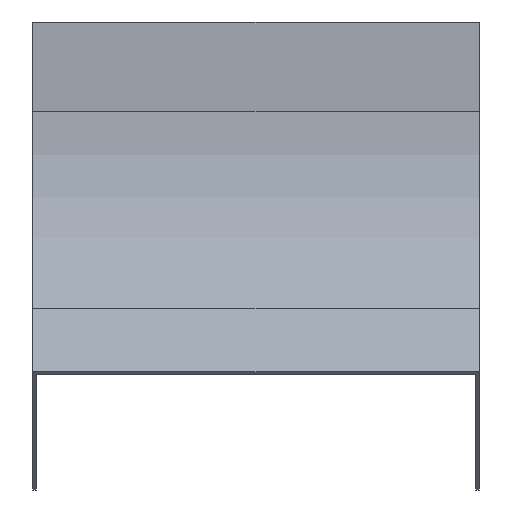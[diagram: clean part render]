
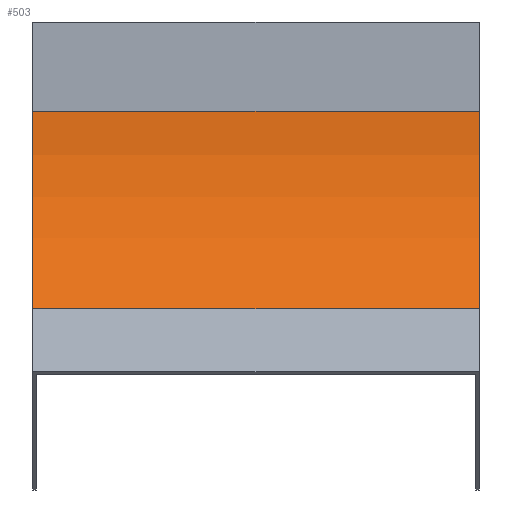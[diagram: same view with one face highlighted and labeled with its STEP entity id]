
A CAD part, front view. The second image highlights one B-rep face of the part: STEP entity #503.
In plain terms, the highlighted cylindrical face has radius 125 mm (diameter 250 mm), a partial arc.
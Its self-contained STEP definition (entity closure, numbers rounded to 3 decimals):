
#82 = CARTESIAN_POINT ( 'NONE',  ( 100., -36.612, -128.388 ) ) ;
#119 = DIRECTION ( 'NONE',  ( -1., 0., 0. ) ) ;
#171 = AXIS2_PLACEMENT_3D ( 'NONE', #788, #428, #202 ) ;
#179 = EDGE_CURVE ( 'NONE', #820, #1233, #903, .T. ) ;
#202 = DIRECTION ( 'NONE',  ( 0., 0., 1. ) ) ;
#251 = ORIENTED_EDGE ( 'NONE', *, *, #834, .F. ) ;
#298 = CARTESIAN_POINT ( 'NONE',  ( 100., -125., -40. ) ) ;
#427 = EDGE_LOOP ( 'NONE', ( #1210, #1341, #251, #778 ) ) ;
#428 = DIRECTION ( 'NONE',  ( -1., 0., 0. ) ) ;
#430 = CARTESIAN_POINT ( 'NONE',  ( 100., 0., -40. ) ) ;
#460 = DIRECTION ( 'NONE',  ( -1., 0., 0. ) ) ;
#488 = DIRECTION ( 'NONE',  ( -1., 0., 0. ) ) ;
#503 = ADVANCED_FACE ( 'NONE', ( #776 ), #790, .F. ) ;
#531 = CARTESIAN_POINT ( 'NONE',  ( 100., -36.612, -128.388 ) ) ;
#594 = AXIS2_PLACEMENT_3D ( 'NONE', #298, #488, #845 ) ;
#702 = VERTEX_POINT ( 'NONE', #82 ) ;
#711 = CARTESIAN_POINT ( 'NONE',  ( 100., 0., -40. ) ) ;
#776 = FACE_OUTER_BOUND ( 'NONE', #427, .T. ) ;
#778 = ORIENTED_EDGE ( 'NONE', *, *, #1558, .T. ) ;
#788 = CARTESIAN_POINT ( 'NONE',  ( -100., -125., -40. ) ) ;
#790 = CYLINDRICAL_SURFACE ( 'NONE', #1643, 125. ) ;
#820 = VERTEX_POINT ( 'NONE', #1125 ) ;
#834 = EDGE_CURVE ( 'NONE', #1454, #702, #1614, .T. ) ;
#845 = DIRECTION ( 'NONE',  ( 0., 0., 1. ) ) ;
#885 = VECTOR ( 'NONE', #1031, 1000. ) ;
#903 = CIRCLE ( 'NONE', #171, 125. ) ;
#959 = VECTOR ( 'NONE', #460, 1000. ) ;
#1031 = DIRECTION ( 'NONE',  ( -1., 0., 0. ) ) ;
#1079 = LINE ( 'NONE', #711, #959 ) ;
#1125 = CARTESIAN_POINT ( 'NONE',  ( -100., 0., -40. ) ) ;
#1148 = EDGE_CURVE ( 'NONE', #702, #1233, #1392, .T. ) ;
#1153 = CARTESIAN_POINT ( 'NONE',  ( -100., -36.612, -128.388 ) ) ;
#1210 = ORIENTED_EDGE ( 'NONE', *, *, #179, .T. ) ;
#1233 = VERTEX_POINT ( 'NONE', #1153 ) ;
#1341 = ORIENTED_EDGE ( 'NONE', *, *, #1148, .F. ) ;
#1392 = LINE ( 'NONE', #531, #885 ) ;
#1414 = CARTESIAN_POINT ( 'NONE',  ( 100., -125., -40. ) ) ;
#1433 = DIRECTION ( 'NONE',  ( 0., 0., 1. ) ) ;
#1454 = VERTEX_POINT ( 'NONE', #430 ) ;
#1558 = EDGE_CURVE ( 'NONE', #1454, #820, #1079, .T. ) ;
#1614 = CIRCLE ( 'NONE', #594, 125. ) ;
#1643 = AXIS2_PLACEMENT_3D ( 'NONE', #1414, #119, #1433 ) ;
